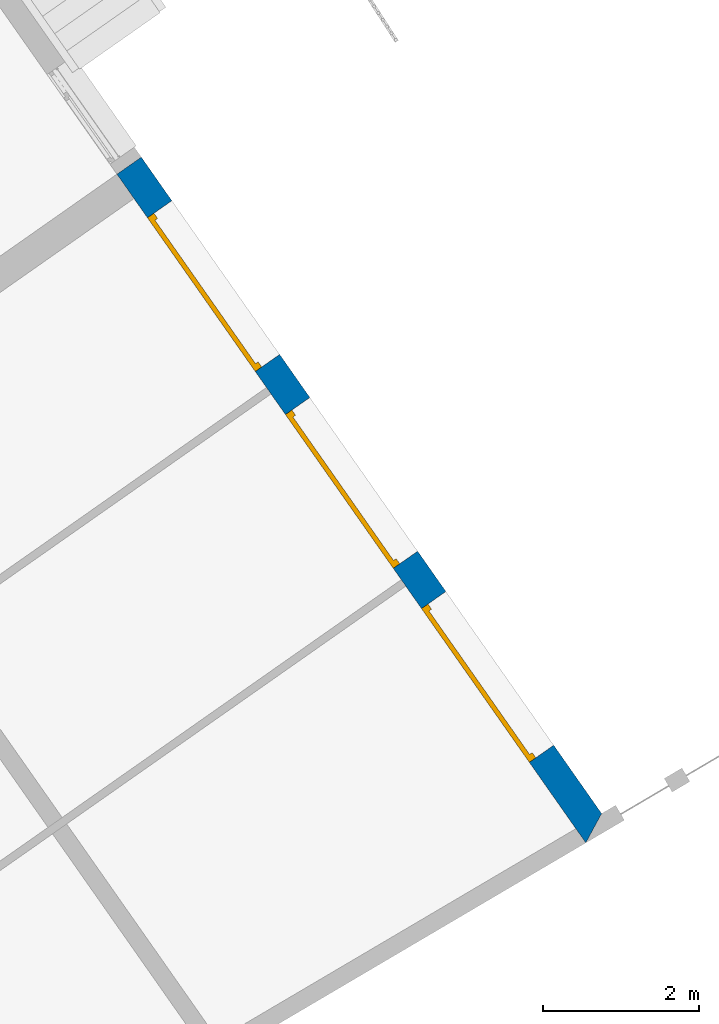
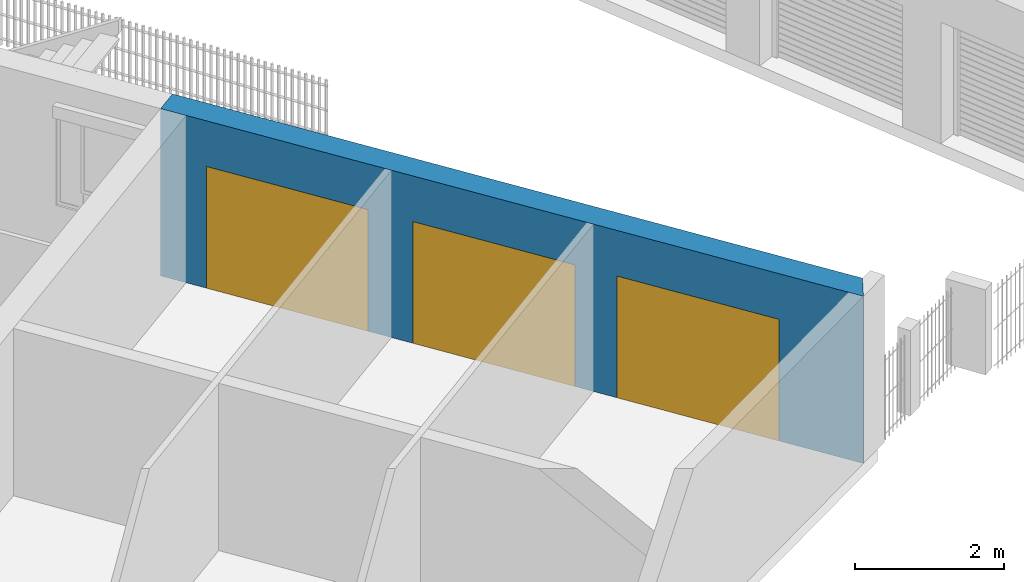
# One storey, part 27 of 195: 3 doors, 1 wall, 3 openings.
"""IFC2X3 building model written with IfcOpenShell, lengths in metres."""

import ifcopenshell
import ifcopenshell.guid

model = None  # the IFC model being written
_history = None  # IfcOwnerHistory: only IFC2X3 demands one
_inside = {}  # id of a spatial element -> (the spatial element, [elements in it])
_under = {}  # id of a project, library or spatial element -> (it, [spatial elements below it])
_declared = {}  # id of a project -> (the project, [libraries it declares])
_typed = {}  # id of a type object -> (the type object, [elements of that type])
_made_of = {}  # id of a material, layer set ... -> (it, [elements and type objects made of it])


def new_model(schema):
    """Start an empty IFC model of exactly this schema.

    Asked for "IFC4X3", IfcOpenShell would pick the latest addendum, in which some entities
    have other attributes; the version numbers below select the first issue.
    IFC2X3 requires an IfcOwnerHistory on every rooted entity: one is made here for all.
    """
    global model, _history
    if schema == "IFC4X3":
        model = ifcopenshell.file(schema_version=(4, 3, 0, 0))
    else:
        model = ifcopenshell.file(schema=schema)
    _inside.clear()
    _under.clear()
    _declared.clear()
    _typed.clear()
    _made_of.clear()
    _history = None
    if model.schema == "IFC2X3":
        org = make("IfcOrganization", Name="unknown")
        user = make(
            "IfcPersonAndOrganization",
            ThePerson=make("IfcPerson", FamilyName="unknown"),
            TheOrganization=org,
        )
        app = make(
            "IfcApplication",
            ApplicationDeveloper=org,
            Version="unknown",
            ApplicationFullName="unknown",
            ApplicationIdentifier="unknown",
        )
        _history = make(
            "IfcOwnerHistory",
            OwningUser=user,
            OwningApplication=app,
            ChangeAction="ADDED",
            CreationDate=0,
        )
    return model


def make(cls, **values):
    """One entity of the class cls with the attributes given. An attribute that is None is left unset."""
    return model.create_entity(
        cls, **{name: value for name, value in values.items() if value is not None}
    )


def entity(cls, *values):
    """Any entity or typed value of the class cls, its attributes in the order of the schema. None: left unset."""
    e = model.create_entity(cls)
    for i, value in enumerate(values):
        if value is not None:
            e[i] = value
    return e


def rooted(cls, **values):
    """An entity with a GlobalId (a new one), such as an element, a storey or a relation."""
    return make(cls, GlobalId=ifcopenshell.guid.new(), OwnerHistory=_history, **values)


def si_unit(unit_type, name, prefix=None):
    """IfcSIUnit, for example si_unit("LENGTHUNIT", "METRE", prefix="MILLI")."""
    return make("IfcSIUnit", UnitType=unit_type, Prefix=prefix, Name=name)


def converted_unit(unit_type, name, factor, base, dimensions=None, offset=None):
    """IfcConversionBasedUnit, such as the inch: factor (a typed value) times the base unit."""
    return make(
        "IfcConversionBasedUnit"
        if offset is None
        else "IfcConversionBasedUnitWithOffset",
        ConversionOffset=offset,
        Dimensions=None
        if dimensions is None
        else entity("IfcDimensionalExponents", *dimensions),
        UnitType=unit_type,
        Name=name,
        ConversionFactor=make(
            "IfcMeasureWithUnit", ValueComponent=factor, UnitComponent=base
        ),
    )


def derived_unit(unit_type, elements):
    """IfcDerivedUnit: a product of units, each with its exponent."""
    return make(
        "IfcDerivedUnit",
        Elements=[
            make("IfcDerivedUnitElement", Unit=unit, Exponent=power)
            for unit, power in elements
        ],
        UnitType=unit_type,
    )


def money_unit(currency):
    """IfcMonetaryUnit."""
    return make("IfcMonetaryUnit", Currency=currency)


def assignment(units):
    """IfcUnitAssignment: the units of a project."""
    return None if units is None else make("IfcUnitAssignment", Units=units)


def point(xyz):
    """IfcCartesianPoint."""
    return None if xyz is None else make("IfcCartesianPoint", Coordinates=xyz)


def direction(xyz):
    """IfcDirection."""
    return None if xyz is None else make("IfcDirection", DirectionRatios=xyz)


def frame(location, z_axis=None, x_axis=None):
    """IfcAxis2Placement3D, a coordinate frame: its origin and axes. An axis left out is left unset."""
    return make(
        "IfcAxis2Placement3D",
        Location=point(location),
        Axis=direction(z_axis),
        RefDirection=direction(x_axis),
    )


def frame_2d(location, x_axis=None):
    """IfcAxis2Placement2D, a coordinate frame in the plane: its origin and x axis."""
    return make(
        "IfcAxis2Placement2D", Location=point(location), RefDirection=direction(x_axis)
    )


def origin_with_axes():
    """The frame at (0, 0, 0) with the z axis (0, 0, 1) and the x axis (1, 0, 0) written out."""
    return frame((0.0, 0.0, 0.0), z_axis=(0.0, 0.0, 1.0), x_axis=(1.0, 0.0, 0.0))


def origin_2d_with_axis():
    """The frame at (0, 0) in the plane with the x axis (1, 0) written out."""
    return frame_2d((0.0, 0.0), x_axis=(1.0, 0.0))


def place(relative_to, where):
    """IfcLocalPlacement: puts the frame where relative to a parent placement (None: the world)."""
    return make(
        "IfcLocalPlacement", PlacementRelTo=relative_to, RelativePlacement=where
    )


def context(
    kind, dimensions, precision=None, world=None, true_north=None, identifier=None
):
    """IfcGeometricRepresentationContext, for example the 3D "Model" context."""
    return make(
        "IfcGeometricRepresentationContext",
        ContextIdentifier=identifier,
        ContextType=kind,
        CoordinateSpaceDimension=dimensions,
        Precision=precision,
        WorldCoordinateSystem=world,
        TrueNorth=true_north,
    )


def subcontext(parent, identifier, kind, view, scale=None):
    """IfcGeometricRepresentationSubContext, for example "Body" below "Model"."""
    return make(
        "IfcGeometricRepresentationSubContext",
        ContextIdentifier=identifier,
        ContextType=kind,
        ParentContext=parent,
        TargetScale=scale,
        TargetView=view,
    )


def project(units=None, contexts=None):
    """IfcProject with its units and contexts."""
    return rooted(
        "IfcProject",
        Name="project",
        RepresentationContexts=contexts,
        UnitsInContext=assignment(units),
    )


def spatial(cls, under=None, at=None, **own):
    """A site, building, storey or space (cls), placed at a placement, below another one or the project."""
    s = rooted(cls, ObjectPlacement=at, **own)
    if under is not None:
        _under.setdefault(under.id(), (under, []))[1].append(s)
    return s


def polyline(points):
    """IfcPolyline through the points."""
    return make("IfcPolyline", Points=[point(p) for p in points])


def profile(cls, at=None, kind="AREA", **sizes):
    """A parametric profile (cls). Its sizes go by their IFC names, for example OverallWidth=200.0."""
    return make(cls, ProfileType=kind, Position=at, **sizes)


def rectangle(**sizes):
    """IfcRectangleProfileDef."""
    return profile("IfcRectangleProfileDef", **sizes)


def outline(outer, holes=None, kind="AREA"):
    """IfcArbitraryClosedProfileDef: a profile drawn as a closed curve; with holes, ...WithVoids."""
    if holes is None:
        return make("IfcArbitraryClosedProfileDef", ProfileType=kind, OuterCurve=outer)
    return make(
        "IfcArbitraryProfileDefWithVoids",
        ProfileType=kind,
        OuterCurve=outer,
        InnerCurves=holes,
    )


def extrude(swept, where, along, depth):
    """IfcExtrudedAreaSolid: the profile swept, set in the frame where, extruded along a direction by depth."""
    return make(
        "IfcExtrudedAreaSolid",
        SweptArea=swept,
        Position=where,
        ExtrudedDirection=direction(along),
        Depth=depth,
    )


def faces_of(points, faces, orient=None, outer=None):
    """IfcFace entities. A face is a list of loops; a loop is a list of indices into points, from 0.

    orient and outer hold one flag for each loop. By default every Orientation is true, the
    first loop of a face is its IfcFaceOuterBound and the others are IfcFaceBound.
    """
    made = []
    for i, loops in enumerate(faces):
        bounds = []
        for j, loop in enumerate(loops):
            is_outer = j == 0 if outer is None else outer[i][j]
            bounds.append(
                make(
                    "IfcFaceOuterBound" if is_outer else "IfcFaceBound",
                    Bound=make("IfcPolyLoop", Polygon=[points[k] for k in loop]),
                    Orientation=True if orient is None else orient[i][j],
                )
            )
        made.append(make("IfcFace", Bounds=bounds))
    return made


def faceted_brep(points, faces, orient=None, outer=None, voids=None):
    """IfcFacetedBrep: a solid bounded by flat faces; with voids (closed shells), ...WithVoids."""
    shared = [point(p) for p in points]
    hull = make("IfcClosedShell", CfsFaces=faces_of(shared, faces, orient, outer))
    if voids is None:
        return make("IfcFacetedBrep", Outer=hull)
    return make(
        "IfcFacetedBrepWithVoids",
        Outer=hull,
        Voids=[
            make(cls, CfsFaces=faces_of(shared, fs, o, b)) for cls, fs, o, b in voids
        ],
    )


def shape(context_of_items, identifier, shape_type, items):
    """IfcShapeRepresentation: the items that make up one representation, for example the "Body"."""
    return make(
        "IfcShapeRepresentation",
        ContextOfItems=context_of_items,
        RepresentationIdentifier=identifier,
        RepresentationType=shape_type,
        Items=items,
    )


def source(mapping_origin, context_of_items, identifier, shape_type, items):
    """IfcRepresentationMap: a shape defined once, which mapped items show again and again."""
    return make(
        "IfcRepresentationMap",
        MappingOrigin=mapping_origin,
        MappedRepresentation=shape(context_of_items, identifier, shape_type, items),
    )


def transform(
    local_origin,
    x_axis=None,
    y_axis=None,
    z_axis=None,
    scale=None,
    scale2=None,
    scale3=None,
    uniform=True,
):
    """IfcCartesianTransformationOperator3D, or its non-uniform kind. x_axis, y_axis, z_axis: its Axis1, 2, 3."""
    if uniform:
        return make(
            "IfcCartesianTransformationOperator3D",
            Axis1=direction(x_axis),
            Axis2=direction(y_axis),
            LocalOrigin=point(local_origin),
            Scale=scale,
            Axis3=direction(z_axis),
        )
    return make(
        "IfcCartesianTransformationOperator3DnonUniform",
        Axis1=direction(x_axis),
        Axis2=direction(y_axis),
        LocalOrigin=point(local_origin),
        Scale=scale,
        Axis3=direction(z_axis),
        Scale2=scale2,
        Scale3=scale3,
    )


def mapped(mapping_source, mapping_target):
    """IfcMappedItem: shows the shape of a source again, moved by a transform."""
    return make(
        "IfcMappedItem", MappingSource=mapping_source, MappingTarget=mapping_target
    )


def material(Name=None, Category=None):
    """IfcMaterial."""
    return make("IfcMaterial", Name=Name, Category=Category)


def layer(
    of_material, thickness, ventilated=None, Name=None, Category=None, Priority=None
):
    """IfcMaterialLayer: one layer of a wall or slab, of a material (None: an air gap)."""
    return make(
        "IfcMaterialLayer",
        Material=of_material,
        LayerThickness=thickness,
        IsVentilated=ventilated,
        Name=Name,
        Category=Category,
        Priority=Priority,
    )


def layer_set(layers, Name=None):
    """IfcMaterialLayerSet."""
    return make("IfcMaterialLayerSet", MaterialLayers=layers, LayerSetName=Name)


def layer_usage(for_layer_set, set_direction, sense, offset, extent=None):
    """IfcMaterialLayerSetUsage: how a layer set lies in its element."""
    return make(
        "IfcMaterialLayerSetUsage",
        ForLayerSet=for_layer_set,
        LayerSetDirection=set_direction,
        DirectionSense=sense,
        OffsetFromReferenceLine=offset,
        ReferenceExtent=extent,
    )


def made_of(thing, what):
    """Note that an element or type object is made of a material, layer set ...; save() writes the relation."""
    if what is not None:
        _made_of.setdefault(what.id(), (what, []))[1].append(thing)
    return thing


def type_object(cls, material=None, **own):
    """A type object (cls), such as IfcWallType, which elements share."""
    return made_of(rooted(cls, **own), material)


def element(
    cls,
    number,
    at=None,
    inside=None,
    cuts=None,
    type_object=None,
    material=None,
    context=None,
    identifier="Body",
    shape_type=None,
    held_by="IfcProductDefinitionShape",
    body=None,
    shapes=None,
    **own,
):
    """One element of the class cls, such as IfcWall. Its Tag is "e" and its number.

    at: its placement. inside: the storey or other place that contains it. cuts: it is an
    opening in that element (IfcRelVoidsElement). A single representation is given by context,
    identifier, shape_type and body (its items); several are given by shapes. held_by: the class
    of the entity that holds the representations. save() writes the other relations.
    """
    e = rooted(cls, Tag="e%d" % number, ObjectPlacement=at, **own)
    if body is not None:
        shapes = [shape(context, identifier, shape_type, body)]
    if shapes is not None:
        e.Representation = make(held_by, Representations=shapes)
    if inside is not None:
        _inside.setdefault(inside.id(), (inside, []))[1].append(e)
    if cuts is not None:
        rooted(
            "IfcRelVoidsElement", RelatingBuildingElement=cuts, RelatedOpeningElement=e
        )
    if type_object is not None:
        _typed.setdefault(type_object.id(), (type_object, []))[1].append(e)
    return made_of(e, material)


def fill(opening, filler):
    """IfcRelFillsElement: the door or window that sits in an opening."""
    return rooted(
        "IfcRelFillsElement",
        RelatingOpeningElement=opening,
        RelatedBuildingElement=filler,
    )


def aggregate(whole, parts):
    """IfcRelAggregates: a whole, such as a stair, and the parts it consists of."""
    return rooted("IfcRelAggregates", RelatingObject=whole, RelatedObjects=parts)


def save(model, path):
    """Write the relations noted so far, then the file.

    IfcRelAggregates (storeys below a building ...), IfcRelContainedInSpatialStructure (elements
    in a storey), IfcRelDefinesByType, IfcRelAssociatesMaterial and IfcRelDeclares: one each for
    every whole, place, type object, material and project.
    """
    for whole, parts in _under.values():
        aggregate(whole, parts)
    for where, things in _inside.values():
        rooted(
            "IfcRelContainedInSpatialStructure",
            RelatedElements=things,
            RelatingStructure=where,
        )
    for kind, things in _typed.values():
        rooted("IfcRelDefinesByType", RelatedObjects=things, RelatingType=kind)
    for what, things in _made_of.values():
        rooted("IfcRelAssociatesMaterial", RelatedObjects=things, RelatingMaterial=what)
    for by, libraries in _declared.values():
        rooted("IfcRelDeclares", RelatingContext=by, RelatedDefinitions=libraries)
    model.write(path)


model = new_model("IFC2X3")

# Units and contexts
model_context = context("Model", 3, precision=1e-05, world=origin_with_axes(), true_north=direction((0.0, 1.0)))
body_context = subcontext(model_context, "Body", "Model", "MODEL_VIEW")
ifc_project = project(units=[si_unit("LENGTHUNIT", "METRE"), si_unit("AREAUNIT", "SQUARE_METRE"), si_unit("VOLUMEUNIT", "CUBIC_METRE"), converted_unit("PLANEANGLEUNIT", "DEGREE", entity("IfcPlaneAngleMeasure", 0.0174532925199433), si_unit("PLANEANGLEUNIT", "RADIAN"), dimensions=[0, 0, 0, 0, 0, 0, 0]), money_unit("CHF"), converted_unit("TIMEUNIT", "Year", entity("IfcTimeMeasure", 31557600.0), si_unit("TIMEUNIT", "SECOND"), dimensions=[0, 0, 1, 0, 0, 0, 0]), si_unit("MASSUNIT", "GRAM", prefix="KILO"), si_unit("THERMODYNAMICTEMPERATUREUNIT", "DEGREE_CELSIUS"), si_unit("LUMINOUSINTENSITYUNIT", "LUMEN"), si_unit("ENERGYUNIT", "JOULE", prefix="MEGA"), derived_unit("THERMALCONDUCTANCEUNIT", [(si_unit("POWERUNIT", "WATT"), 1), (si_unit("LENGTHUNIT", "METRE"), -1), (si_unit("THERMODYNAMICTEMPERATUREUNIT", "KELVIN"), -1)]), derived_unit("SPECIFICHEATCAPACITYUNIT", [(si_unit("ENERGYUNIT", "JOULE"), 1), (si_unit("MASSUNIT", "GRAM", prefix="KILO"), -1), (si_unit("THERMODYNAMICTEMPERATUREUNIT", "KELVIN"), -1)]), derived_unit("MASSDENSITYUNIT", [(si_unit("MASSUNIT", "GRAM", prefix="KILO"), 1), (si_unit("VOLUMEUNIT", "CUBIC_METRE"), -1)])], contexts=[model_context])

# Site, building, storey
site_placement = place(None, origin_with_axes())
site = spatial("IfcSite", under=ifc_project, at=site_placement, Name="Site", CompositionType="ELEMENT")
building_placement = place(site_placement, origin_with_axes())
building = spatial("IfcBuilding", under=site, at=building_placement, Name="Bâtiment", CompositionType="ELEMENT")
storey_placement = place(building_placement, origin_with_axes())
storey = spatial("IfcBuildingStorey", under=building, at=storey_placement, Name="rdc", CompositionType="ELEMENT", Elevation=0.0)

# Wall, openings, doors
ifc_material_1 = material(Name="Parpaing 312445824")
ifc_layer_1 = layer(ifc_material_1, 0.22, ventilated="UNKNOWN")
ifc_material_2 = material(Name="Isolant styromousse 301821074")
ifc_layer_2 = layer(ifc_material_2, 0.16, ventilated="UNKNOWN")
ifc_layer_set = layer_set([ifc_layer_1, ifc_layer_2], Name="isol int 22+16 0836643197")
ifc_layer_usage = layer_usage(ifc_layer_set, "AXIS2", "POSITIVE", 0.0)
wall_type = type_object("IfcWallType", Name="isol int 22+16 0836643197 380", PredefinedType="NOTDEFINED")
wall_placement = place(storey_placement, frame((9563.08341973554, -1070.185282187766, 57.7), z_axis=(0.0, 0.0, 1.0), x_axis=(-0.574159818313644, 0.8187432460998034, 0.0)))
wall = element("IfcWallStandardCase", 1, at=wall_placement, inside=storey, type_object=wall_type, material=ifc_layer_usage, Name="Mur-113", context=body_context, shape_type="SweptSolid", body=[
    extrude(outline(polyline([(0.2206911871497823, 0.0), (10.46813388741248, 0.0), (10.46813388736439, 0.3800000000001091), (0.03014573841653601, 0.3800000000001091), (0.2206911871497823, 0.0)])), origin_with_axes(), (0.0, 0.0, 1.0), 2.75),
])
opening_1_placement = place(wall_placement, frame((2.487615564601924, 0.0, 0.0), z_axis=(0.0, 0.0, 1.0), x_axis=(1.0, 0.0, 0.0)))
opening_1 = element("IfcOpeningElement", 2, at=opening_1_placement, cuts=wall, Name="Por-301", context=body_context, shape_type="SweptSolid", body=[
    extrude(rectangle(XDim=2.399999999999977, YDim=2.0, at=origin_2d_with_axis()), frame((0.0, 0.3799999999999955, 1.0), z_axis=(0.0, -1.0, 0.0), x_axis=(1.0, 0.0, 0.0)), (0.0, 0.0, -1.0), 0.38),
    extrude(rectangle(XDim=2.399999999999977, YDim=2.0, at=origin_2d_with_axis()), frame((0.0, 0.3799999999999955, 1.0), z_axis=(0.0, 1.0, 0.0), x_axis=(1.0, 0.0, 0.0)), (0.0, 0.0, -1.0), 0.38),
])
opening_2_placement = place(wall_placement, frame((8.588133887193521, 0.0, 0.0), z_axis=(0.0, 0.0, 1.0), x_axis=(1.0, 0.0, 0.0)))
opening_2 = element("IfcOpeningElement", 3, at=opening_2_placement, cuts=wall, Name="Por-303", context=body_context, shape_type="SweptSolid", body=[
    extrude(rectangle(XDim=2.399999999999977, YDim=2.0, at=origin_2d_with_axis()), frame((0.0, 0.3800000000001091, 1.0), z_axis=(0.0, -1.0, 0.0), x_axis=(1.0, 0.0, 0.0)), (0.0, 0.0, -1.0), 0.38),
    extrude(rectangle(XDim=2.399999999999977, YDim=2.0, at=origin_2d_with_axis()), frame((0.0, 0.3800000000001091, 1.0), z_axis=(0.0, 1.0, 0.0), x_axis=(1.0, 0.0, 0.0)), (0.0, 0.0, -1.0), 0.38),
])
opening_3_placement = place(wall_placement, frame((5.515977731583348, 0.0, 0.0), z_axis=(0.0, 0.0, 1.0), x_axis=(1.0, 0.0, 0.0)))
opening_3 = element("IfcOpeningElement", 4, at=opening_3_placement, cuts=wall, Name="Por-302", context=body_context, shape_type="SweptSolid", body=[
    extrude(rectangle(XDim=2.399999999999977, YDim=2.0, at=origin_2d_with_axis()), frame((0.0, 0.3799999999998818, 1.0), z_axis=(0.0, -1.0, 0.0), x_axis=(1.0, 0.0, 0.0)), (0.0, 0.0, -1.0), 0.38),
    extrude(rectangle(XDim=2.399999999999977, YDim=2.0, at=origin_2d_with_axis()), frame((0.0, 0.3799999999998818, 1.0), z_axis=(0.0, 1.0, 0.0), x_axis=(1.0, 0.0, 0.0)), (0.0, 0.0, -1.0), 0.38),
])
door_style = type_object("IfcDoorStyle", ConstructionType="NOTDEFINED", OperationType="NOTDEFINED", ParameterTakesPrecedence=False, Sizeable=False)
shared_shape_1 = source(origin_with_axes(), body_context, "Body", "Brep", [
    faceted_brep([(-1.2, 0.0, 0.0), (-1.2, -0.09999999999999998, 0.0), (-1.2, -0.09999999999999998, 2.0), (-1.2, 0.0, 2.0), (-1.12, 0.0, 0.0), (-1.12, -0.09999999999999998, 0.0), (-1.12, -0.09999999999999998, 1.92), (1.12, -0.09999999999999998, 1.92), (1.12, -0.09999999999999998, 0.0), (1.2, -0.09999999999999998, 0.0), (1.2, -0.09999999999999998, 2.0), (1.2, 0.0, 2.0), (1.2, 0.0, 0.0), (1.12, 0.0, 0.0), (1.12, 0.0, 1.92), (-1.12, 0.0, 1.92)], [[[0, 1, 2, 3]], [[4, 5, 1, 0]], [[1, 5, 6, 7, 8, 9, 10, 2]], [[3, 2, 10, 11]], [[0, 3, 11, 12, 13, 14, 15, 4]], [[15, 6, 5, 4]], [[14, 7, 6, 15]], [[13, 8, 7, 14]], [[12, 9, 8, 13]], [[11, 10, 9, 12]]]),
    faceted_brep([(-1.12, -0.03999999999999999, 0.0), (-1.12, -0.05999999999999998, 0.0), (-1.12, -0.05999999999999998, 0.09157894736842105), (-1.12, -0.03999999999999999, 0.09157894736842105), (1.12, -0.03999999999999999, 0.0), (1.12, -0.05999999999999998, 0.0), (1.12, -0.05999999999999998, 0.09157894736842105), (1.12, -0.03999999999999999, 0.09157894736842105)], [[[0, 1, 2, 3]], [[4, 5, 1, 0]], [[1, 5, 6, 2]], [[3, 2, 6, 7]], [[0, 3, 7, 4]], [[7, 6, 5, 4]]]),
    faceted_brep([(-1.12, -0.03999999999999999, 0.101578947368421), (-1.12, -0.05999999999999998, 0.101578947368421), (-1.12, -0.05999999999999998, 0.1931578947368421), (-1.12, -0.03999999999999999, 0.1931578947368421), (1.12, -0.03999999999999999, 0.101578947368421), (1.12, -0.05999999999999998, 0.101578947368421), (1.12, -0.05999999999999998, 0.1931578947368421), (1.12, -0.03999999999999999, 0.1931578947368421)], [[[0, 1, 2, 3]], [[4, 5, 1, 0]], [[1, 5, 6, 2]], [[3, 2, 6, 7]], [[0, 3, 7, 4]], [[7, 6, 5, 4]]]),
    faceted_brep([(-1.12, -0.03999999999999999, 0.2031578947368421), (-1.12, -0.05999999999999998, 0.2031578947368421), (-1.12, -0.05999999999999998, 0.2947368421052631), (-1.12, -0.03999999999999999, 0.2947368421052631), (1.12, -0.03999999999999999, 0.2031578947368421), (1.12, -0.05999999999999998, 0.2031578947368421), (1.12, -0.05999999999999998, 0.2947368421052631), (1.12, -0.03999999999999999, 0.2947368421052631)], [[[0, 1, 2, 3]], [[4, 5, 1, 0]], [[1, 5, 6, 2]], [[3, 2, 6, 7]], [[0, 3, 7, 4]], [[7, 6, 5, 4]]]),
    faceted_brep([(-1.12, -0.03999999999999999, 0.3047368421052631), (-1.12, -0.05999999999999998, 0.3047368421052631), (-1.12, -0.05999999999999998, 0.3963157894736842), (-1.12, -0.03999999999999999, 0.3963157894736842), (1.12, -0.03999999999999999, 0.3047368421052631), (1.12, -0.05999999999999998, 0.3047368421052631), (1.12, -0.05999999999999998, 0.3963157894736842), (1.12, -0.03999999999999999, 0.3963157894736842)], [[[0, 1, 2, 3]], [[4, 5, 1, 0]], [[1, 5, 6, 2]], [[3, 2, 6, 7]], [[0, 3, 7, 4]], [[7, 6, 5, 4]]]),
    faceted_brep([(-1.12, -0.03999999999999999, 0.4063157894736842), (-1.12, -0.05999999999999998, 0.4063157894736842), (-1.12, -0.05999999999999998, 0.4978947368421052), (-1.12, -0.03999999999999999, 0.4978947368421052), (1.12, -0.03999999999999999, 0.4063157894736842), (1.12, -0.05999999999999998, 0.4063157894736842), (1.12, -0.05999999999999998, 0.4978947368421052), (1.12, -0.03999999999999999, 0.4978947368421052)], [[[0, 1, 2, 3]], [[4, 5, 1, 0]], [[1, 5, 6, 2]], [[3, 2, 6, 7]], [[0, 3, 7, 4]], [[7, 6, 5, 4]]]),
    faceted_brep([(-1.12, -0.03999999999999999, 0.5078947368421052), (-1.12, -0.05999999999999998, 0.5078947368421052), (-1.12, -0.05999999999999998, 0.5994736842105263), (-1.12, -0.03999999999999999, 0.5994736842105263), (1.12, -0.03999999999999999, 0.5078947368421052), (1.12, -0.05999999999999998, 0.5078947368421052), (1.12, -0.05999999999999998, 0.5994736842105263), (1.12, -0.03999999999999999, 0.5994736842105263)], [[[0, 1, 2, 3]], [[4, 5, 1, 0]], [[1, 5, 6, 2]], [[3, 2, 6, 7]], [[0, 3, 7, 4]], [[7, 6, 5, 4]]]),
    faceted_brep([(-1.12, -0.03999999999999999, 0.6094736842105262), (-1.12, -0.05999999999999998, 0.6094736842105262), (-1.12, -0.05999999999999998, 0.7010526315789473), (-1.12, -0.03999999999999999, 0.7010526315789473), (1.12, -0.03999999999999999, 0.6094736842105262), (1.12, -0.05999999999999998, 0.6094736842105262), (1.12, -0.05999999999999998, 0.7010526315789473), (1.12, -0.03999999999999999, 0.7010526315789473)], [[[0, 1, 2, 3]], [[4, 5, 1, 0]], [[1, 5, 6, 2]], [[3, 2, 6, 7]], [[0, 3, 7, 4]], [[7, 6, 5, 4]]]),
    faceted_brep([(-1.12, -0.03999999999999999, 0.7110526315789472), (-1.12, -0.05999999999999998, 0.7110526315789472), (-1.12, -0.05999999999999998, 0.8026315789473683), (-1.12, -0.03999999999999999, 0.8026315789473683), (1.12, -0.03999999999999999, 0.7110526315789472), (1.12, -0.05999999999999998, 0.7110526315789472), (1.12, -0.05999999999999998, 0.8026315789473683), (1.12, -0.03999999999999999, 0.8026315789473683)], [[[0, 1, 2, 3]], [[4, 5, 1, 0]], [[1, 5, 6, 2]], [[3, 2, 6, 7]], [[0, 3, 7, 4]], [[7, 6, 5, 4]]]),
    faceted_brep([(-1.12, -0.03999999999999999, 0.8126315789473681), (-1.12, -0.05999999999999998, 0.8126315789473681), (-1.12, -0.05999999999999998, 0.9042105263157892), (-1.12, -0.03999999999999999, 0.9042105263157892), (1.12, -0.03999999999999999, 0.8126315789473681), (1.12, -0.05999999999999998, 0.8126315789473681), (1.12, -0.05999999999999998, 0.9042105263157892), (1.12, -0.03999999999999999, 0.9042105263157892)], [[[0, 1, 2, 3]], [[4, 5, 1, 0]], [[1, 5, 6, 2]], [[3, 2, 6, 7]], [[0, 3, 7, 4]], [[7, 6, 5, 4]]]),
    faceted_brep([(-1.12, -0.03999999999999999, 0.9142105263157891), (-1.12, -0.05999999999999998, 0.9142105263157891), (-1.12, -0.05999999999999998, 1.00578947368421), (-1.12, -0.03999999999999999, 1.00578947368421), (1.12, -0.03999999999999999, 0.9142105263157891), (1.12, -0.05999999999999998, 0.9142105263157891), (1.12, -0.05999999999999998, 1.00578947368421), (1.12, -0.03999999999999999, 1.00578947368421)], [[[0, 1, 2, 3]], [[4, 5, 1, 0]], [[1, 5, 6, 2]], [[3, 2, 6, 7]], [[0, 3, 7, 4]], [[7, 6, 5, 4]]]),
    faceted_brep([(-1.12, -0.03999999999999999, 1.01578947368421), (-1.12, -0.05999999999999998, 1.01578947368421), (-1.12, -0.05999999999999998, 1.107368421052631), (-1.12, -0.03999999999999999, 1.107368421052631), (1.12, -0.03999999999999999, 1.01578947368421), (1.12, -0.05999999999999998, 1.01578947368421), (1.12, -0.05999999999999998, 1.107368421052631), (1.12, -0.03999999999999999, 1.107368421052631)], [[[0, 1, 2, 3]], [[4, 5, 1, 0]], [[1, 5, 6, 2]], [[3, 2, 6, 7]], [[0, 3, 7, 4]], [[7, 6, 5, 4]]]),
    faceted_brep([(-1.12, -0.03999999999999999, 1.117368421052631), (-1.12, -0.05999999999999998, 1.117368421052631), (-1.12, -0.05999999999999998, 1.208947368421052), (-1.12, -0.03999999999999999, 1.208947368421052), (1.12, -0.03999999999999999, 1.117368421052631), (1.12, -0.05999999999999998, 1.117368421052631), (1.12, -0.05999999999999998, 1.208947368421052), (1.12, -0.03999999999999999, 1.208947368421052)], [[[0, 1, 2, 3]], [[4, 5, 1, 0]], [[1, 5, 6, 2]], [[3, 2, 6, 7]], [[0, 3, 7, 4]], [[7, 6, 5, 4]]]),
    faceted_brep([(-1.12, -0.03999999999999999, 1.218947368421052), (-1.12, -0.05999999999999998, 1.218947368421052), (-1.12, -0.05999999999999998, 1.310526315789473), (-1.12, -0.03999999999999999, 1.310526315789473), (1.12, -0.03999999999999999, 1.218947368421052), (1.12, -0.05999999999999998, 1.218947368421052), (1.12, -0.05999999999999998, 1.310526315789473), (1.12, -0.03999999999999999, 1.310526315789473)], [[[0, 1, 2, 3]], [[4, 5, 1, 0]], [[1, 5, 6, 2]], [[3, 2, 6, 7]], [[0, 3, 7, 4]], [[7, 6, 5, 4]]]),
    faceted_brep([(-1.12, -0.03999999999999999, 1.320526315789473), (-1.12, -0.05999999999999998, 1.320526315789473), (-1.12, -0.05999999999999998, 1.412105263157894), (-1.12, -0.03999999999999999, 1.412105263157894), (1.12, -0.03999999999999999, 1.320526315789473), (1.12, -0.05999999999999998, 1.320526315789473), (1.12, -0.05999999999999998, 1.412105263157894), (1.12, -0.03999999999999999, 1.412105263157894)], [[[0, 1, 2, 3]], [[4, 5, 1, 0]], [[1, 5, 6, 2]], [[3, 2, 6, 7]], [[0, 3, 7, 4]], [[7, 6, 5, 4]]]),
    faceted_brep([(-1.12, -0.03999999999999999, 1.422105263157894), (-1.12, -0.05999999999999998, 1.422105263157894), (-1.12, -0.05999999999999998, 1.513684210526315), (-1.12, -0.03999999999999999, 1.513684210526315), (1.12, -0.03999999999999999, 1.422105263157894), (1.12, -0.05999999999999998, 1.422105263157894), (1.12, -0.05999999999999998, 1.513684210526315), (1.12, -0.03999999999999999, 1.513684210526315)], [[[0, 1, 2, 3]], [[4, 5, 1, 0]], [[1, 5, 6, 2]], [[3, 2, 6, 7]], [[0, 3, 7, 4]], [[7, 6, 5, 4]]]),
    faceted_brep([(-1.12, -0.03999999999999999, 1.523684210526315), (-1.12, -0.05999999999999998, 1.523684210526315), (-1.12, -0.05999999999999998, 1.615263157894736), (-1.12, -0.03999999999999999, 1.615263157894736), (1.12, -0.03999999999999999, 1.523684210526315), (1.12, -0.05999999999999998, 1.523684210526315), (1.12, -0.05999999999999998, 1.615263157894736), (1.12, -0.03999999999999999, 1.615263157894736)], [[[0, 1, 2, 3]], [[4, 5, 1, 0]], [[1, 5, 6, 2]], [[3, 2, 6, 7]], [[0, 3, 7, 4]], [[7, 6, 5, 4]]]),
    faceted_brep([(-1.12, -0.03999999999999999, 1.625263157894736), (-1.12, -0.05999999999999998, 1.625263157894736), (-1.12, -0.05999999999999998, 1.716842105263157), (-1.12, -0.03999999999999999, 1.716842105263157), (1.12, -0.03999999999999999, 1.625263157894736), (1.12, -0.05999999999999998, 1.625263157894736), (1.12, -0.05999999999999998, 1.716842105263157), (1.12, -0.03999999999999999, 1.716842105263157)], [[[0, 1, 2, 3]], [[4, 5, 1, 0]], [[1, 5, 6, 2]], [[3, 2, 6, 7]], [[0, 3, 7, 4]], [[7, 6, 5, 4]]]),
    faceted_brep([(-1.12, -0.03999999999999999, 1.726842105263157), (-1.12, -0.05999999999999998, 1.726842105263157), (-1.12, -0.05999999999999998, 1.818421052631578), (-1.12, -0.03999999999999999, 1.818421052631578), (1.12, -0.03999999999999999, 1.726842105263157), (1.12, -0.05999999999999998, 1.726842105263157), (1.12, -0.05999999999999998, 1.818421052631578), (1.12, -0.03999999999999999, 1.818421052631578)], [[[0, 1, 2, 3]], [[4, 5, 1, 0]], [[1, 5, 6, 2]], [[3, 2, 6, 7]], [[0, 3, 7, 4]], [[7, 6, 5, 4]]]),
    faceted_brep([(-1.12, -0.03999999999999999, 1.828421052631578), (-1.12, -0.05999999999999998, 1.828421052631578), (-1.12, -0.05999999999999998, 1.919999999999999), (-1.12, -0.03999999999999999, 1.919999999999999), (1.12, -0.03999999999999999, 1.828421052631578), (1.12, -0.05999999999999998, 1.828421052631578), (1.12, -0.05999999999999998, 1.919999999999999), (1.12, -0.03999999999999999, 1.919999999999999)], [[[0, 1, 2, 3]], [[4, 5, 1, 0]], [[1, 5, 6, 2]], [[3, 2, 6, 7]], [[0, 3, 7, 4]], [[7, 6, 5, 4]]]),
    faceted_brep([(1.12, -0.05999999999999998, 0.0), (1.12, -0.09999999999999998, 0.0), (-1.12, -0.09999999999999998, 0.0), (-1.12, -0.05999999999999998, 0.0), (1.12, -0.05999999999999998, 1.92), (1.12, -0.09999999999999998, 1.92), (-1.12, -0.09999999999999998, 1.92), (-1.12, -0.05999999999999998, 1.92)], [[[0, 1, 2, 3]], [[4, 5, 1, 0]], [[1, 5, 6, 2]], [[3, 2, 6, 7]], [[0, 3, 7, 4]], [[7, 6, 5, 4]]]),
])
door_1_placement = place(opening_1_placement, frame((1.199999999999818, 0.0, 0.0), z_axis=(0.0, 0.0, 1.0), x_axis=(-1.0, 0.0, 0.0)))
door_1 = element("IfcDoor", 5, at=door_1_placement, inside=storey, type_object=door_style, Name="Por-301", OverallHeight=2.0, OverallWidth=2.4, context=body_context, shape_type="MappedRepresentation", body=[
    mapped(shared_shape_1, transform((1.199999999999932, -0.2799999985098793, 0.0))),
])
fill(opening_1, door_1)
shared_shape_2 = source(origin_with_axes(), body_context, "Body", "Brep", [
    faceted_brep([(1.2, 0.0, 0.0), (1.2, 0.0, 2.0), (1.2, -0.09999999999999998, 2.0), (1.2, -0.09999999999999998, 0.0), (1.12, 0.0, 0.0), (1.12, 0.0, 1.92), (-1.12, 0.0, 1.92), (-1.12, 0.0, 0.0), (-1.2, 0.0, 0.0), (-1.2, 0.0, 2.0), (-1.2, -0.09999999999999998, 2.0), (-1.2, -0.09999999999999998, 0.0), (-1.12, -0.09999999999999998, 0.0), (-1.12, -0.09999999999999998, 1.92), (1.12, -0.09999999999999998, 1.92), (1.12, -0.09999999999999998, 0.0)], [[[0, 1, 2, 3]], [[0, 4, 5, 6, 7, 8, 9, 1]], [[1, 9, 10, 2]], [[3, 2, 10, 11, 12, 13, 14, 15]], [[4, 0, 3, 15]], [[5, 4, 15, 14]], [[6, 5, 14, 13]], [[7, 6, 13, 12]], [[8, 7, 12, 11]], [[9, 8, 11, 10]]]),
    faceted_brep([(1.12, -0.03999999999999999, 0.0), (1.12, -0.03999999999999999, 0.09157894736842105), (1.12, -0.05999999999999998, 0.09157894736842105), (1.12, -0.05999999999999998, 0.0), (-1.12, -0.03999999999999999, 0.0), (-1.12, -0.03999999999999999, 0.09157894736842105), (-1.12, -0.05999999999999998, 0.09157894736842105), (-1.12, -0.05999999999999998, 0.0)], [[[0, 1, 2, 3]], [[0, 4, 5, 1]], [[1, 5, 6, 2]], [[3, 2, 6, 7]], [[4, 0, 3, 7]], [[5, 4, 7, 6]]]),
    faceted_brep([(1.12, -0.03999999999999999, 0.101578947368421), (1.12, -0.03999999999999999, 0.1931578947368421), (1.12, -0.05999999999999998, 0.1931578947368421), (1.12, -0.05999999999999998, 0.101578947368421), (-1.12, -0.03999999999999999, 0.101578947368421), (-1.12, -0.03999999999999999, 0.1931578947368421), (-1.12, -0.05999999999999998, 0.1931578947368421), (-1.12, -0.05999999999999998, 0.101578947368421)], [[[0, 1, 2, 3]], [[0, 4, 5, 1]], [[1, 5, 6, 2]], [[3, 2, 6, 7]], [[4, 0, 3, 7]], [[5, 4, 7, 6]]]),
    faceted_brep([(1.12, -0.03999999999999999, 0.2031578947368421), (1.12, -0.03999999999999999, 0.2947368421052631), (1.12, -0.05999999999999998, 0.2947368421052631), (1.12, -0.05999999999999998, 0.2031578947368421), (-1.12, -0.03999999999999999, 0.2031578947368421), (-1.12, -0.03999999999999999, 0.2947368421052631), (-1.12, -0.05999999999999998, 0.2947368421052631), (-1.12, -0.05999999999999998, 0.2031578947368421)], [[[0, 1, 2, 3]], [[0, 4, 5, 1]], [[1, 5, 6, 2]], [[3, 2, 6, 7]], [[4, 0, 3, 7]], [[5, 4, 7, 6]]]),
    faceted_brep([(1.12, -0.03999999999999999, 0.3047368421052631), (1.12, -0.03999999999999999, 0.3963157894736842), (1.12, -0.05999999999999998, 0.3963157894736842), (1.12, -0.05999999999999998, 0.3047368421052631), (-1.12, -0.03999999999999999, 0.3047368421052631), (-1.12, -0.03999999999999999, 0.3963157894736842), (-1.12, -0.05999999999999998, 0.3963157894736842), (-1.12, -0.05999999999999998, 0.3047368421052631)], [[[0, 1, 2, 3]], [[0, 4, 5, 1]], [[1, 5, 6, 2]], [[3, 2, 6, 7]], [[4, 0, 3, 7]], [[5, 4, 7, 6]]]),
    faceted_brep([(1.12, -0.03999999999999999, 0.4063157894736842), (1.12, -0.03999999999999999, 0.4978947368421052), (1.12, -0.05999999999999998, 0.4978947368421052), (1.12, -0.05999999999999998, 0.4063157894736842), (-1.12, -0.03999999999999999, 0.4063157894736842), (-1.12, -0.03999999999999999, 0.4978947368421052), (-1.12, -0.05999999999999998, 0.4978947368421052), (-1.12, -0.05999999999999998, 0.4063157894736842)], [[[0, 1, 2, 3]], [[0, 4, 5, 1]], [[1, 5, 6, 2]], [[3, 2, 6, 7]], [[4, 0, 3, 7]], [[5, 4, 7, 6]]]),
    faceted_brep([(1.12, -0.03999999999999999, 0.5078947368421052), (1.12, -0.03999999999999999, 0.5994736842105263), (1.12, -0.05999999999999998, 0.5994736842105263), (1.12, -0.05999999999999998, 0.5078947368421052), (-1.12, -0.03999999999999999, 0.5078947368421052), (-1.12, -0.03999999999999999, 0.5994736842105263), (-1.12, -0.05999999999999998, 0.5994736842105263), (-1.12, -0.05999999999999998, 0.5078947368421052)], [[[0, 1, 2, 3]], [[0, 4, 5, 1]], [[1, 5, 6, 2]], [[3, 2, 6, 7]], [[4, 0, 3, 7]], [[5, 4, 7, 6]]]),
    faceted_brep([(1.12, -0.03999999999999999, 0.6094736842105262), (1.12, -0.03999999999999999, 0.7010526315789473), (1.12, -0.05999999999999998, 0.7010526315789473), (1.12, -0.05999999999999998, 0.6094736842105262), (-1.12, -0.03999999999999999, 0.6094736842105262), (-1.12, -0.03999999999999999, 0.7010526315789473), (-1.12, -0.05999999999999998, 0.7010526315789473), (-1.12, -0.05999999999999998, 0.6094736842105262)], [[[0, 1, 2, 3]], [[0, 4, 5, 1]], [[1, 5, 6, 2]], [[3, 2, 6, 7]], [[4, 0, 3, 7]], [[5, 4, 7, 6]]]),
    faceted_brep([(1.12, -0.03999999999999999, 0.7110526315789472), (1.12, -0.03999999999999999, 0.8026315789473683), (1.12, -0.05999999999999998, 0.8026315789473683), (1.12, -0.05999999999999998, 0.7110526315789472), (-1.12, -0.03999999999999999, 0.7110526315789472), (-1.12, -0.03999999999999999, 0.8026315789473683), (-1.12, -0.05999999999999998, 0.8026315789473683), (-1.12, -0.05999999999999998, 0.7110526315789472)], [[[0, 1, 2, 3]], [[0, 4, 5, 1]], [[1, 5, 6, 2]], [[3, 2, 6, 7]], [[4, 0, 3, 7]], [[5, 4, 7, 6]]]),
    faceted_brep([(1.12, -0.03999999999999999, 0.8126315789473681), (1.12, -0.03999999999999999, 0.9042105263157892), (1.12, -0.05999999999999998, 0.9042105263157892), (1.12, -0.05999999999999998, 0.8126315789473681), (-1.12, -0.03999999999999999, 0.8126315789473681), (-1.12, -0.03999999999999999, 0.9042105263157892), (-1.12, -0.05999999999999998, 0.9042105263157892), (-1.12, -0.05999999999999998, 0.8126315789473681)], [[[0, 1, 2, 3]], [[0, 4, 5, 1]], [[1, 5, 6, 2]], [[3, 2, 6, 7]], [[4, 0, 3, 7]], [[5, 4, 7, 6]]]),
    faceted_brep([(1.12, -0.03999999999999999, 0.9142105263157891), (1.12, -0.03999999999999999, 1.00578947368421), (1.12, -0.05999999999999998, 1.00578947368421), (1.12, -0.05999999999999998, 0.9142105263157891), (-1.12, -0.03999999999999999, 0.9142105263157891), (-1.12, -0.03999999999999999, 1.00578947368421), (-1.12, -0.05999999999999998, 1.00578947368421), (-1.12, -0.05999999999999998, 0.9142105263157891)], [[[0, 1, 2, 3]], [[0, 4, 5, 1]], [[1, 5, 6, 2]], [[3, 2, 6, 7]], [[4, 0, 3, 7]], [[5, 4, 7, 6]]]),
    faceted_brep([(1.12, -0.03999999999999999, 1.01578947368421), (1.12, -0.03999999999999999, 1.107368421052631), (1.12, -0.05999999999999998, 1.107368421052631), (1.12, -0.05999999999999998, 1.01578947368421), (-1.12, -0.03999999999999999, 1.01578947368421), (-1.12, -0.03999999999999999, 1.107368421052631), (-1.12, -0.05999999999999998, 1.107368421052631), (-1.12, -0.05999999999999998, 1.01578947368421)], [[[0, 1, 2, 3]], [[0, 4, 5, 1]], [[1, 5, 6, 2]], [[3, 2, 6, 7]], [[4, 0, 3, 7]], [[5, 4, 7, 6]]]),
    faceted_brep([(1.12, -0.03999999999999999, 1.117368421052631), (1.12, -0.03999999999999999, 1.208947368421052), (1.12, -0.05999999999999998, 1.208947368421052), (1.12, -0.05999999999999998, 1.117368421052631), (-1.12, -0.03999999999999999, 1.117368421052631), (-1.12, -0.03999999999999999, 1.208947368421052), (-1.12, -0.05999999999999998, 1.208947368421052), (-1.12, -0.05999999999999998, 1.117368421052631)], [[[0, 1, 2, 3]], [[0, 4, 5, 1]], [[1, 5, 6, 2]], [[3, 2, 6, 7]], [[4, 0, 3, 7]], [[5, 4, 7, 6]]]),
    faceted_brep([(1.12, -0.03999999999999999, 1.218947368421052), (1.12, -0.03999999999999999, 1.310526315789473), (1.12, -0.05999999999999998, 1.310526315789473), (1.12, -0.05999999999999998, 1.218947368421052), (-1.12, -0.03999999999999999, 1.218947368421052), (-1.12, -0.03999999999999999, 1.310526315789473), (-1.12, -0.05999999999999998, 1.310526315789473), (-1.12, -0.05999999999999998, 1.218947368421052)], [[[0, 1, 2, 3]], [[0, 4, 5, 1]], [[1, 5, 6, 2]], [[3, 2, 6, 7]], [[4, 0, 3, 7]], [[5, 4, 7, 6]]]),
    faceted_brep([(1.12, -0.03999999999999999, 1.320526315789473), (1.12, -0.03999999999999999, 1.412105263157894), (1.12, -0.05999999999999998, 1.412105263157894), (1.12, -0.05999999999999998, 1.320526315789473), (-1.12, -0.03999999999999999, 1.320526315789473), (-1.12, -0.03999999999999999, 1.412105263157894), (-1.12, -0.05999999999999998, 1.412105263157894), (-1.12, -0.05999999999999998, 1.320526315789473)], [[[0, 1, 2, 3]], [[0, 4, 5, 1]], [[1, 5, 6, 2]], [[3, 2, 6, 7]], [[4, 0, 3, 7]], [[5, 4, 7, 6]]]),
    faceted_brep([(1.12, -0.03999999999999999, 1.422105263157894), (1.12, -0.03999999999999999, 1.513684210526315), (1.12, -0.05999999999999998, 1.513684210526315), (1.12, -0.05999999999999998, 1.422105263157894), (-1.12, -0.03999999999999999, 1.422105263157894), (-1.12, -0.03999999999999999, 1.513684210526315), (-1.12, -0.05999999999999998, 1.513684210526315), (-1.12, -0.05999999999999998, 1.422105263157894)], [[[0, 1, 2, 3]], [[0, 4, 5, 1]], [[1, 5, 6, 2]], [[3, 2, 6, 7]], [[4, 0, 3, 7]], [[5, 4, 7, 6]]]),
    faceted_brep([(1.12, -0.03999999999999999, 1.523684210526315), (1.12, -0.03999999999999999, 1.615263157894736), (1.12, -0.05999999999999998, 1.615263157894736), (1.12, -0.05999999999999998, 1.523684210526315), (-1.12, -0.03999999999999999, 1.523684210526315), (-1.12, -0.03999999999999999, 1.615263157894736), (-1.12, -0.05999999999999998, 1.615263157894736), (-1.12, -0.05999999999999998, 1.523684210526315)], [[[0, 1, 2, 3]], [[0, 4, 5, 1]], [[1, 5, 6, 2]], [[3, 2, 6, 7]], [[4, 0, 3, 7]], [[5, 4, 7, 6]]]),
    faceted_brep([(1.12, -0.03999999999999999, 1.625263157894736), (1.12, -0.03999999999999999, 1.716842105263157), (1.12, -0.05999999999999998, 1.716842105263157), (1.12, -0.05999999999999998, 1.625263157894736), (-1.12, -0.03999999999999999, 1.625263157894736), (-1.12, -0.03999999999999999, 1.716842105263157), (-1.12, -0.05999999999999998, 1.716842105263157), (-1.12, -0.05999999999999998, 1.625263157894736)], [[[0, 1, 2, 3]], [[0, 4, 5, 1]], [[1, 5, 6, 2]], [[3, 2, 6, 7]], [[4, 0, 3, 7]], [[5, 4, 7, 6]]]),
    faceted_brep([(1.12, -0.03999999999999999, 1.726842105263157), (1.12, -0.03999999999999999, 1.818421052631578), (1.12, -0.05999999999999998, 1.818421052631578), (1.12, -0.05999999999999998, 1.726842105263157), (-1.12, -0.03999999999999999, 1.726842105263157), (-1.12, -0.03999999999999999, 1.818421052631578), (-1.12, -0.05999999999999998, 1.818421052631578), (-1.12, -0.05999999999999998, 1.726842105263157)], [[[0, 1, 2, 3]], [[0, 4, 5, 1]], [[1, 5, 6, 2]], [[3, 2, 6, 7]], [[4, 0, 3, 7]], [[5, 4, 7, 6]]]),
    faceted_brep([(1.12, -0.03999999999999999, 1.828421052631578), (1.12, -0.03999999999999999, 1.919999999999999), (1.12, -0.05999999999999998, 1.919999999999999), (1.12, -0.05999999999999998, 1.828421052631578), (-1.12, -0.03999999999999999, 1.828421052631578), (-1.12, -0.03999999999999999, 1.919999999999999), (-1.12, -0.05999999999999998, 1.919999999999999), (-1.12, -0.05999999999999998, 1.828421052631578)], [[[0, 1, 2, 3]], [[0, 4, 5, 1]], [[1, 5, 6, 2]], [[3, 2, 6, 7]], [[4, 0, 3, 7]], [[5, 4, 7, 6]]]),
    faceted_brep([(-1.12, -0.05999999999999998, 0.0), (1.12, -0.05999999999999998, 0.0), (1.12, -0.09999999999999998, 0.0), (-1.12, -0.09999999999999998, 0.0), (-1.12, -0.05999999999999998, 1.92), (1.12, -0.05999999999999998, 1.92), (1.12, -0.09999999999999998, 1.92), (-1.12, -0.09999999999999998, 1.92)], [[[0, 1, 2, 3]], [[0, 4, 5, 1]], [[1, 5, 6, 2]], [[3, 2, 6, 7]], [[4, 0, 3, 7]], [[5, 4, 7, 6]]]),
])
door_2_placement = place(opening_3_placement, frame((1.2000000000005, 0.0, 0.0), z_axis=(0.0, 0.0, 1.0), x_axis=(-1.0, 0.0, 0.0)))
door_2 = element("IfcDoor", 6, at=door_2_placement, inside=storey, type_object=door_style, Name="Por-302", OverallHeight=2.0, OverallWidth=2.4, context=body_context, shape_type="MappedRepresentation", body=[
    mapped(shared_shape_2, transform((1.200000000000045, -0.2799999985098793, 0.0))),
])
fill(opening_3, door_2)
door_3_placement = place(opening_2_placement, frame((1.199999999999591, 0.0, 0.0), z_axis=(0.0, 0.0, 1.0), x_axis=(-1.0, 0.0, 0.0)))
door_3 = element("IfcDoor", 7, at=door_3_placement, inside=storey, type_object=door_style, Name="Por-303", OverallHeight=2.0, OverallWidth=2.4, context=body_context, shape_type="MappedRepresentation", body=[
    mapped(shared_shape_2, transform((1.200000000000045, -0.279999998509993, 0.0))),
])
fill(opening_2, door_3)

save(model, "model.ifc")
